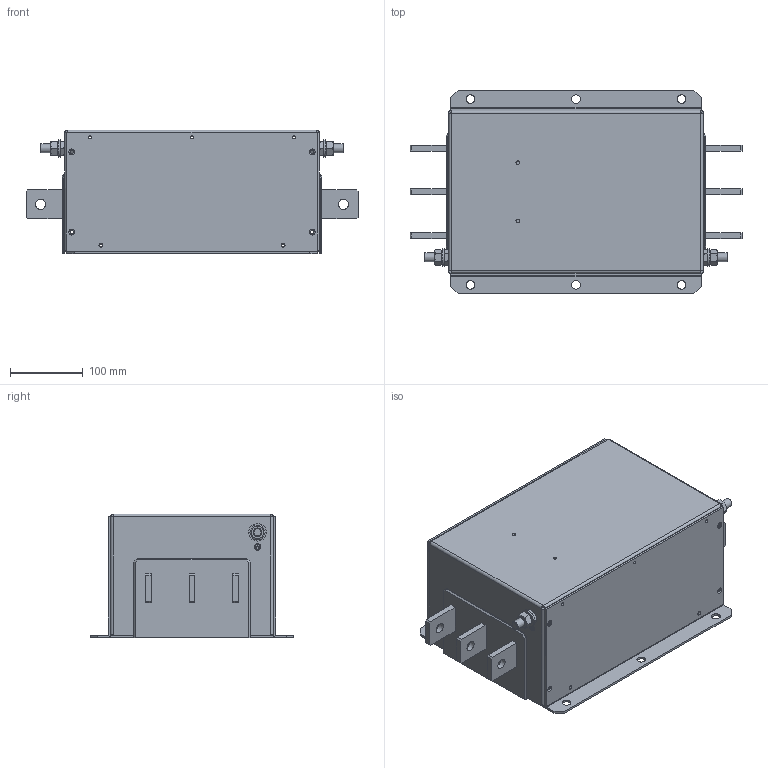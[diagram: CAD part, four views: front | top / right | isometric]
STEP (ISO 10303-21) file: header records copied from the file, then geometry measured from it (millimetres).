
FILE_DESCRIPTION((''),'2;1');
FILE_NAME('L:\INVENTOR_Projektedaten\HousingDesign\FN3359HV-800_1000-99.stp','2013-05-21T11:07:05',('Samuel.Meier'),(''),'Autodesk Inventor 2013','Autodesk Inventor 2013','');
FILE_SCHEMA(('AUTOMOTIVE_DESIGN { 1 0 10303 214 1 1 1 1 }'));
Length unit declared in the file: millimetre
Products named in the file (1): Bauteil1
Bounding box: 456 x 280 x 170 mm (x, y, z)
Volume: 1617542.7 mm3; surface area: 892786.2 mm2
Topology: 8 solids, 8 shells, 938 faces, 2452 edges, 1570 vertices
Faces by surface type: plane 546, cylinder 352, cone 32, bspline 8
Full cylindrical faces by diameter (mm): 4.1 x18, 4.11 x8, 4.3 x6, 4.82 x2, 5.5 x4, 8 x2, 9 x2, 12 x14, 13 x4, 14 x6, 16.63 x2, 24 x4
Entity records: 29588 total; most frequent: CARTESIAN_POINT 5393, DIRECTION 4948, ORIENTED_EDGE 4704, EDGE_CURVE 2352, AXIS2_PLACEMENT_3D 1781, VERTEX_POINT 1562, VECTOR 1386, LINE 1386
